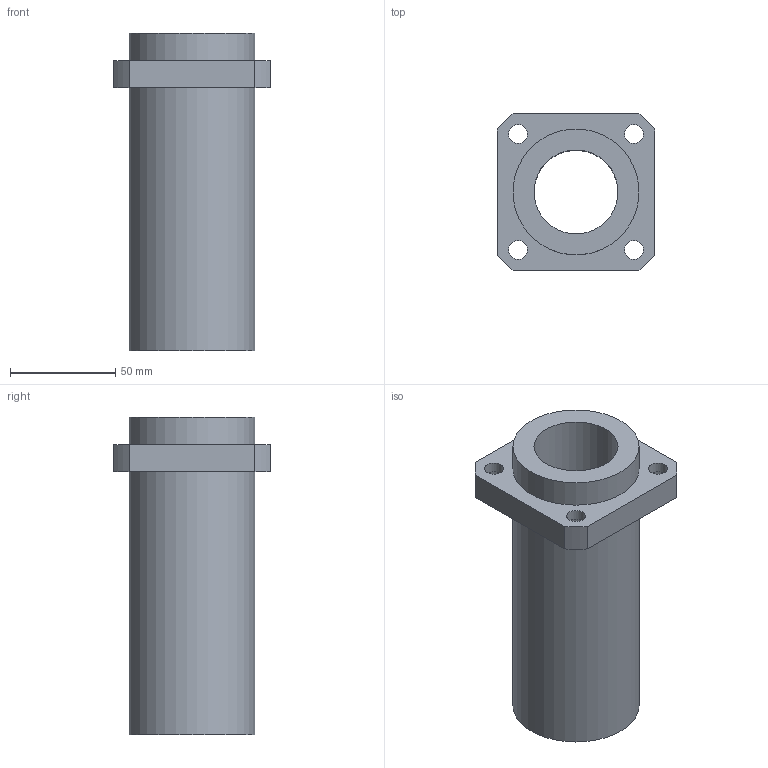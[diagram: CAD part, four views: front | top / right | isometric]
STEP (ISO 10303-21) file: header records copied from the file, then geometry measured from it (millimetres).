
FILE_DESCRIPTION(/* description */ (''),/* implementation_level */ '2;1');
FILE_NAME(/* name */ 'LMKP40LUU',/* time_stamp */ '2019-07-10T14:02:47+02:00',/* author */ ('VĂ©gh MĂˇtĂ©'),/* organization */ ('Bearing Kft'),/* preprocessor_version */ 'ST-DEVELOPER v16.7',/* originating_system */ 'DEX',/* authorisation */ $);
FILE_SCHEMA (('AUTOMOTIVE_DESIGN {1 0 10303 214 3 1 1}'));
Length unit declared in the file: millimetre
Products named in the file (1): LMKP40LUU
Bounding box: 75 x 75 x 151 mm (x, y, z)
Volume: 265954.1 mm3; surface area: 58674.1 mm2
Topology: 1 solids, 1 shells, 350 faces, 880 edges, 588 vertices
Faces by surface type: plane 274, bspline 59, cylinder 17
Full cylindrical faces by diameter (mm): 9 x4, 14 x4, 40 x1, 60 x2
Entity records: 13182 total; most frequent: CARTESIAN_POINT 5158, ORIENTED_EDGE 1724, DIRECTION 1362, EDGE_CURVE 862, LINE 710, VECTOR 710, VERTEX_POINT 584, EDGE_LOOP 430
